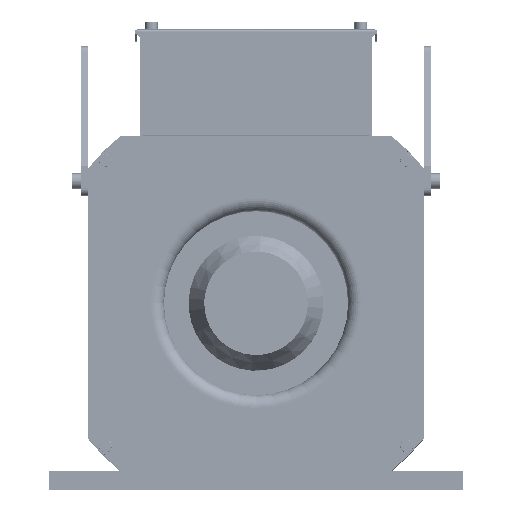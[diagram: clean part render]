
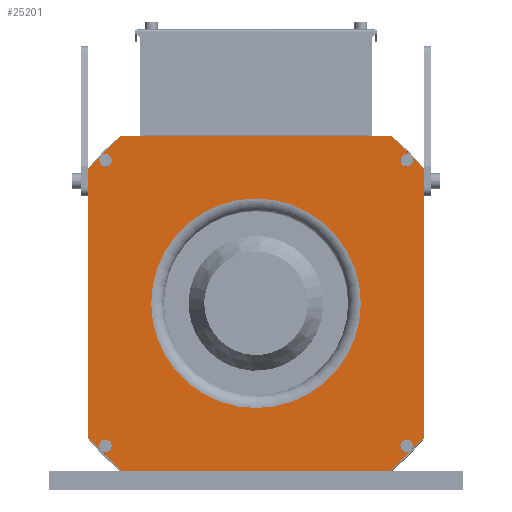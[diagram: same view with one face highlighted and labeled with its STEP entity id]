
A CAD part, top view. The second image highlights one B-rep face of the part: STEP entity #25201.
In plain terms, the highlighted planar face has unit normal (0, 0, 1) as drawn and (-1, 0, 0) by its records, which use the part's own axes.
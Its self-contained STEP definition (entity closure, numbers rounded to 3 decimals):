
#74 = VERTEX_POINT ( 'NONE', #29018 ) ;
#89 = VECTOR ( 'NONE', #117624, 1000. ) ;
#1150 = AXIS2_PLACEMENT_3D ( 'NONE', #46970, #74548, #35357 ) ;
#3919 = EDGE_CURVE ( 'NONE', #94190, #64179, #110311, .T. ) ;
#5497 = LINE ( 'NONE', #98016, #89 ) ;
#5985 = CARTESIAN_POINT ( 'NONE',  ( 0., -90., -112. ) ) ;
#6844 = EDGE_CURVE ( 'NONE', #74, #47154, #103900, .T. ) ;
#7366 = VECTOR ( 'NONE', #55767, 1000. ) ;
#7988 = CARTESIAN_POINT ( 'NONE',  ( 0., 112., 0. ) ) ;
#9585 = FACE_BOUND ( 'NONE', #59653, .T. ) ;
#10670 = ORIENTED_EDGE ( 'NONE', *, *, #89821, .F. ) ;
#11735 = ORIENTED_EDGE ( 'NONE', *, *, #110066, .F. ) ;
#12342 = VECTOR ( 'NONE', #82156, 1000. ) ;
#13695 = EDGE_LOOP ( 'NONE', ( #37040, #112206, #54906, #112703, #44315, #54992, #72979, #10670 ) ) ;
#14493 = CARTESIAN_POINT ( 'NONE',  ( 0., 0., 0. ) ) ;
#17040 = VERTEX_POINT ( 'NONE', #47616 ) ;
#18132 = CARTESIAN_POINT ( 'NONE',  ( 0., -112., 90. ) ) ;
#19926 = CARTESIAN_POINT ( 'NONE',  ( 0., -90., -112. ) ) ;
#20088 = CARTESIAN_POINT ( 'NONE',  ( 0., 0., 0. ) ) ;
#20635 = CARTESIAN_POINT ( 'NONE',  ( 0., 112., -90. ) ) ;
#21272 = CARTESIAN_POINT ( 'NONE',  ( 0., 0., -70. ) ) ;
#25201 = ADVANCED_FACE ( 'NONE', ( #9585, #101507 ), #56178, .F. ) ;
#25913 = CIRCLE ( 'NONE', #41616, 70. ) ;
#26348 = LINE ( 'NONE', #91923, #12342 ) ;
#29018 = CARTESIAN_POINT ( 'NONE',  ( 0., -112., -90. ) ) ;
#29246 = DIRECTION ( 'NONE',  ( 0., 0.707, 0.707 ) ) ;
#30468 = VECTOR ( 'NONE', #108182, 1000. ) ;
#34696 = VERTEX_POINT ( 'NONE', #90299 ) ;
#35357 = DIRECTION ( 'NONE',  ( 0., 0., -1. ) ) ;
#35627 = CARTESIAN_POINT ( 'NONE',  ( 0., 112., 90. ) ) ;
#37040 = ORIENTED_EDGE ( 'NONE', *, *, #99358, .F. ) ;
#39130 = DIRECTION ( 'NONE',  ( -1., 0., 0. ) ) ;
#40200 = CARTESIAN_POINT ( 'NONE',  ( 0., 112., -90. ) ) ;
#41394 = VERTEX_POINT ( 'NONE', #18132 ) ;
#41616 = AXIS2_PLACEMENT_3D ( 'NONE', #20088, #39130, #76491 ) ;
#44307 = CARTESIAN_POINT ( 'NONE',  ( 0., -112., 90. ) ) ;
#44315 = ORIENTED_EDGE ( 'NONE', *, *, #59757, .F. ) ;
#44469 = CARTESIAN_POINT ( 'NONE',  ( 0., 155., 112. ) ) ;
#46970 = CARTESIAN_POINT ( 'NONE',  ( 0., 155., 0. ) ) ;
#47154 = VERTEX_POINT ( 'NONE', #5985 ) ;
#47616 = CARTESIAN_POINT ( 'NONE',  ( 0., 0., 70. ) ) ;
#47631 = LINE ( 'NONE', #20635, #111468 ) ;
#48215 = LINE ( 'NONE', #44469, #30468 ) ;
#49817 = VECTOR ( 'NONE', #94660, 1000. ) ;
#54191 = CARTESIAN_POINT ( 'NONE',  ( 0., 90., 112. ) ) ;
#54509 = LINE ( 'NONE', #110853, #81707 ) ;
#54571 = VERTEX_POINT ( 'NONE', #21272 ) ;
#54674 = EDGE_CURVE ( 'NONE', #17040, #54571, #81258, .T. ) ;
#54906 = ORIENTED_EDGE ( 'NONE', *, *, #3919, .F. ) ;
#54992 = ORIENTED_EDGE ( 'NONE', *, *, #6844, .F. ) ;
#55767 = DIRECTION ( 'NONE',  ( 0., 0., 1. ) ) ;
#56178 = PLANE ( 'NONE',  #1150 ) ;
#59653 = EDGE_LOOP ( 'NONE', ( #119376, #11735 ) ) ;
#59757 = EDGE_CURVE ( 'NONE', #47154, #90045, #54509, .T. ) ;
#62314 = DIRECTION ( 'NONE',  ( -1., 0., 0. ) ) ;
#64179 = VERTEX_POINT ( 'NONE', #35627 ) ;
#72493 = LINE ( 'NONE', #44307, #107204 ) ;
#72979 = ORIENTED_EDGE ( 'NONE', *, *, #110585, .F. ) ;
#74548 = DIRECTION ( 'NONE',  ( 1., 0., 0. ) ) ;
#76491 = DIRECTION ( 'NONE',  ( 0., 0., 1. ) ) ;
#81258 = CIRCLE ( 'NONE', #112573, 70. ) ;
#81707 = VECTOR ( 'NONE', #92431, 1000. ) ;
#82156 = DIRECTION ( 'NONE',  ( 0., 0., -1. ) ) ;
#82414 = VERTEX_POINT ( 'NONE', #54191 ) ;
#89821 = EDGE_CURVE ( 'NONE', #34696, #41394, #72493, .T. ) ;
#90045 = VERTEX_POINT ( 'NONE', #115285 ) ;
#90299 = CARTESIAN_POINT ( 'NONE',  ( 0., -90., 112. ) ) ;
#91923 = CARTESIAN_POINT ( 'NONE',  ( 0., -112., 0. ) ) ;
#92180 = EDGE_CURVE ( 'NONE', #90045, #94190, #47631, .T. ) ;
#92431 = DIRECTION ( 'NONE',  ( 0., 1., 0. ) ) ;
#94190 = VERTEX_POINT ( 'NONE', #40200 ) ;
#94660 = DIRECTION ( 'NONE',  ( 0., 0.707, -0.707 ) ) ;
#97840 = DIRECTION ( 'NONE',  ( 0., 0., 1. ) ) ;
#98016 = CARTESIAN_POINT ( 'NONE',  ( 0., 90., 112. ) ) ;
#99358 = EDGE_CURVE ( 'NONE', #82414, #34696, #48215, .T. ) ;
#101507 = FACE_OUTER_BOUND ( 'NONE', #13695, .T. ) ;
#102425 = DIRECTION ( 'NONE',  ( 0., -0.707, -0.707 ) ) ;
#103900 = LINE ( 'NONE', #19926, #49817 ) ;
#107204 = VECTOR ( 'NONE', #102425, 1000. ) ;
#108182 = DIRECTION ( 'NONE',  ( 0., -1., 0. ) ) ;
#108640 = EDGE_CURVE ( 'NONE', #64179, #82414, #5497, .T. ) ;
#110066 = EDGE_CURVE ( 'NONE', #54571, #17040, #25913, .T. ) ;
#110311 = LINE ( 'NONE', #7988, #7366 ) ;
#110585 = EDGE_CURVE ( 'NONE', #41394, #74, #26348, .T. ) ;
#110853 = CARTESIAN_POINT ( 'NONE',  ( 0., 155., -112. ) ) ;
#111468 = VECTOR ( 'NONE', #29246, 1000. ) ;
#112206 = ORIENTED_EDGE ( 'NONE', *, *, #108640, .F. ) ;
#112573 = AXIS2_PLACEMENT_3D ( 'NONE', #14493, #62314, #97840 ) ;
#112703 = ORIENTED_EDGE ( 'NONE', *, *, #92180, .F. ) ;
#115285 = CARTESIAN_POINT ( 'NONE',  ( 0., 90., -112. ) ) ;
#117624 = DIRECTION ( 'NONE',  ( 0., -0.707, 0.707 ) ) ;
#119376 = ORIENTED_EDGE ( 'NONE', *, *, #54674, .F. ) ;
